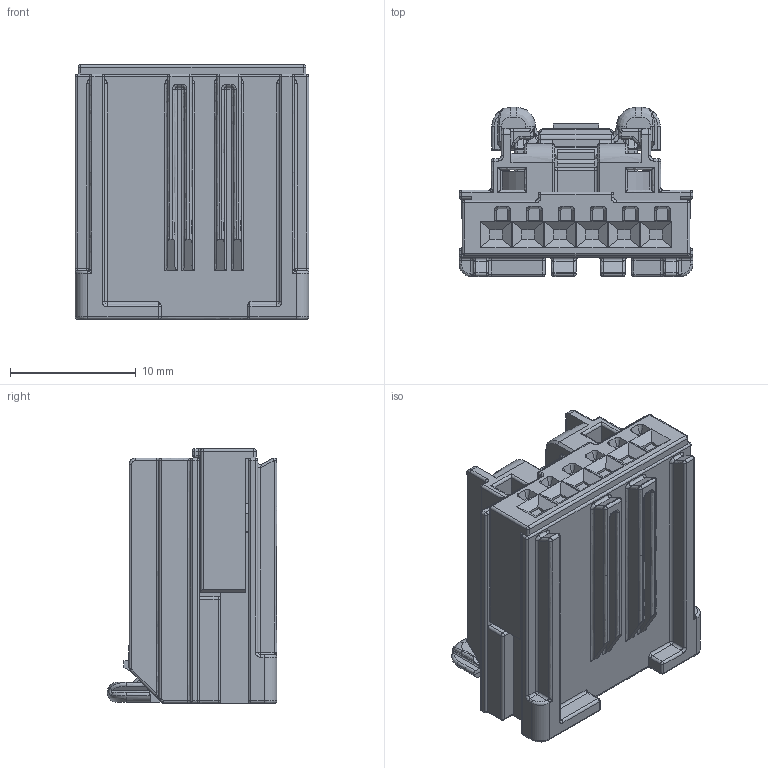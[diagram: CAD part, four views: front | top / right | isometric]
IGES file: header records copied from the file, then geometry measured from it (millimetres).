
Start section:  PTC IGES file: c-2035363-6-a-3d.igs
Global section: file name: c-2035363-6-a-3d.igs; native system: Creo Parametric by PTC Inc.; preprocessor: 2016050; author: workeradm; organization: Unknown; units: millimetre
Bounding box: 18.55 x 13.45 x 20.22 mm (x, y, z)
Surface area: 2686.3 mm2 (no closed solid volume)
Topology: 0 solids, 0 shells, 1114 faces, 5560 edges, 5560 vertices
Faces by surface type: bspline 588, revolution 526
